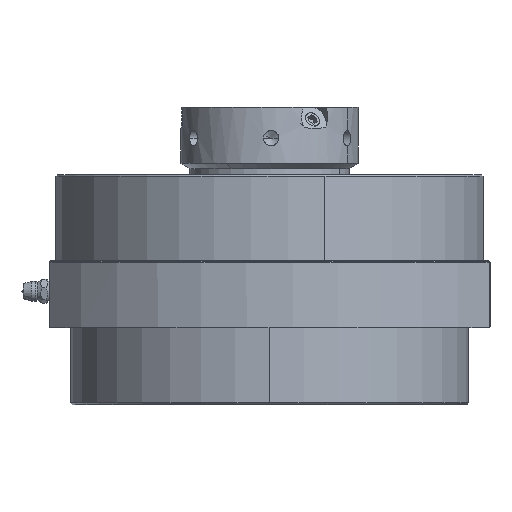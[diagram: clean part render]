
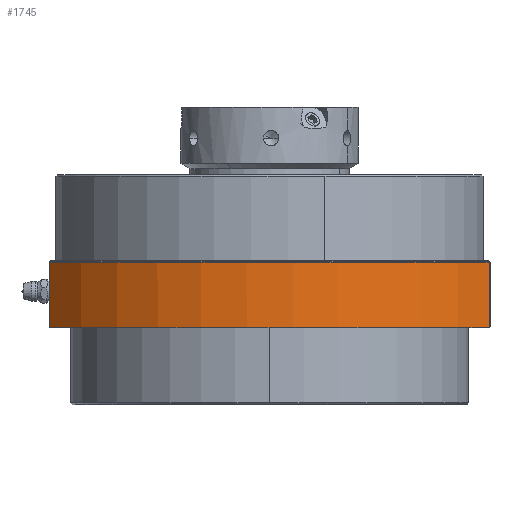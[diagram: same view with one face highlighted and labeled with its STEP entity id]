
A CAD part, left-side view. The second image highlights one B-rep face of the part: STEP entity #1745.
In plain terms, the highlighted cylindrical face has radius 90 mm (diameter 180 mm), a partial arc.
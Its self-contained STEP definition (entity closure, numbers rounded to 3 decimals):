
#323 = EDGE_CURVE ( 'NONE', #15051, #3833, #3083, .T. ) ;
#596 = CIRCLE ( 'NONE', #16528, 90. ) ;
#810 = CARTESIAN_POINT ( 'NONE',  ( -54.572, 71.567, 25.067 ) ) ;
#845 = EDGE_LOOP ( 'NONE', ( #10323, #12228, #6220, #17212, #15029, #18375 ) ) ;
#923 = DIRECTION ( 'NONE',  ( 1., 0., 0. ) ) ;
#1156 = EDGE_CURVE ( 'NONE', #3833, #13543, #5122, .T. ) ;
#1230 = CIRCLE ( 'NONE', #12149, 90. ) ;
#1745 = ADVANCED_FACE ( 'NONE', ( #11041 ), #17036, .T. ) ;
#2184 = DIRECTION ( 'NONE',  ( 1., 0., 0. ) ) ;
#2685 = EDGE_CURVE ( 'NONE', #15051, #8739, #596, .T. ) ;
#2733 = EDGE_CURVE ( 'NONE', #13543, #8869, #1230, .T. ) ;
#2984 = EDGE_CURVE ( 'NONE', #8739, #12842, #16187, .T. ) ;
#3083 = LINE ( 'NONE', #11972, #16753 ) ;
#3833 = VERTEX_POINT ( 'NONE', #6381 ) ;
#4243 = CARTESIAN_POINT ( 'NONE',  ( -54.572, -71.567, 25.067 ) ) ;
#4326 = DIRECTION ( 'NONE',  ( 0., 0., -1. ) ) ;
#4460 = CARTESIAN_POINT ( 'NONE',  ( -54.396, -71.701, 25.201 ) ) ;
#5122 =( BOUNDED_CURVE ( )  B_SPLINE_CURVE ( 3, ( #5208, #15594, #810, #8146 ),
 .UNSPECIFIED., .F., .F. ) 
 B_SPLINE_CURVE_WITH_KNOTS ( ( 4, 4 ),
 ( 3.791, 3.794 ),
 .UNSPECIFIED. ) 
 CURVE ( )  GEOMETRIC_REPRESENTATION_ITEM ( )  RATIONAL_B_SPLINE_CURVE ( ( 1., 1., 1., 1. ) ) 
 REPRESENTATION_ITEM ( '' )  );
#5208 = CARTESIAN_POINT ( 'NONE',  ( -54.396, 71.701, 25.201 ) ) ;
#5794 = CARTESIAN_POINT ( 'NONE',  ( -54.396, -71.701, 47. ) ) ;
#5818 = DIRECTION ( 'NONE',  ( 0., 0., -1. ) ) ;
#6220 = ORIENTED_EDGE ( 'NONE', *, *, #2984, .F. ) ;
#6381 = CARTESIAN_POINT ( 'NONE',  ( -54.396, 71.701, 25.201 ) ) ;
#6918 =( BOUNDED_CURVE ( )  B_SPLINE_CURVE ( 3, ( #7391, #4243, #13159, #9048 ),
 .UNSPECIFIED., .F., .F. ) 
 B_SPLINE_CURVE_WITH_KNOTS ( ( 4, 4 ),
 ( 2.489, 2.493 ),
 .UNSPECIFIED. ) 
 CURVE ( )  GEOMETRIC_REPRESENTATION_ITEM ( )  RATIONAL_B_SPLINE_CURVE ( ( 1., 1., 1., 1. ) ) 
 REPRESENTATION_ITEM ( '' )  );
#7391 = CARTESIAN_POINT ( 'NONE',  ( -54.66, -71.5, 25. ) ) ;
#7577 = CARTESIAN_POINT ( 'NONE',  ( -54.66, -71.5, 25. ) ) ;
#8146 = CARTESIAN_POINT ( 'NONE',  ( -54.66, 71.5, 25. ) ) ;
#8452 = AXIS2_PLACEMENT_3D ( 'NONE', #14187, #15582, #2184 ) ;
#8739 = VERTEX_POINT ( 'NONE', #18831 ) ;
#8825 = EDGE_CURVE ( 'NONE', #8869, #12842, #6918, .T. ) ;
#8869 = VERTEX_POINT ( 'NONE', #7577 ) ;
#9048 = CARTESIAN_POINT ( 'NONE',  ( -54.396, -71.701, 25.201 ) ) ;
#10323 = ORIENTED_EDGE ( 'NONE', *, *, #2733, .T. ) ;
#11041 = FACE_OUTER_BOUND ( 'NONE', #845, .T. ) ;
#11972 = CARTESIAN_POINT ( 'NONE',  ( -54.396, 71.701, 47. ) ) ;
#12149 = AXIS2_PLACEMENT_3D ( 'NONE', #12762, #15610, #15899 ) ;
#12228 = ORIENTED_EDGE ( 'NONE', *, *, #8825, .T. ) ;
#12459 = CARTESIAN_POINT ( 'NONE',  ( -54.396, 71.701, 46.5 ) ) ;
#12762 = CARTESIAN_POINT ( 'NONE',  ( 0., 0., 25. ) ) ;
#12842 = VERTEX_POINT ( 'NONE', #4460 ) ;
#13159 = CARTESIAN_POINT ( 'NONE',  ( -54.484, -71.634, 25.134 ) ) ;
#13543 = VERTEX_POINT ( 'NONE', #18771 ) ;
#14187 = CARTESIAN_POINT ( 'NONE',  ( 0., 0., 47. ) ) ;
#15029 = ORIENTED_EDGE ( 'NONE', *, *, #323, .T. ) ;
#15051 = VERTEX_POINT ( 'NONE', #12459 ) ;
#15505 = DIRECTION ( 'NONE',  ( 0., 0., 1. ) ) ;
#15582 = DIRECTION ( 'NONE',  ( 0., 0., -1. ) ) ;
#15594 = CARTESIAN_POINT ( 'NONE',  ( -54.484, 71.634, 25.134 ) ) ;
#15610 = DIRECTION ( 'NONE',  ( 0., 0., 1. ) ) ;
#15899 = DIRECTION ( 'NONE',  ( -1., 0., 0. ) ) ;
#16187 = LINE ( 'NONE', #5794, #18743 ) ;
#16528 = AXIS2_PLACEMENT_3D ( 'NONE', #17259, #15505, #923 ) ;
#16753 = VECTOR ( 'NONE', #5818, 1000. ) ;
#17036 = CYLINDRICAL_SURFACE ( 'NONE', #8452, 90. ) ;
#17212 = ORIENTED_EDGE ( 'NONE', *, *, #2685, .F. ) ;
#17259 = CARTESIAN_POINT ( 'NONE',  ( 0., 0., 46.5 ) ) ;
#18375 = ORIENTED_EDGE ( 'NONE', *, *, #1156, .T. ) ;
#18743 = VECTOR ( 'NONE', #4326, 1000. ) ;
#18771 = CARTESIAN_POINT ( 'NONE',  ( -54.66, 71.5, 25. ) ) ;
#18831 = CARTESIAN_POINT ( 'NONE',  ( -54.396, -71.701, 46.5 ) ) ;
